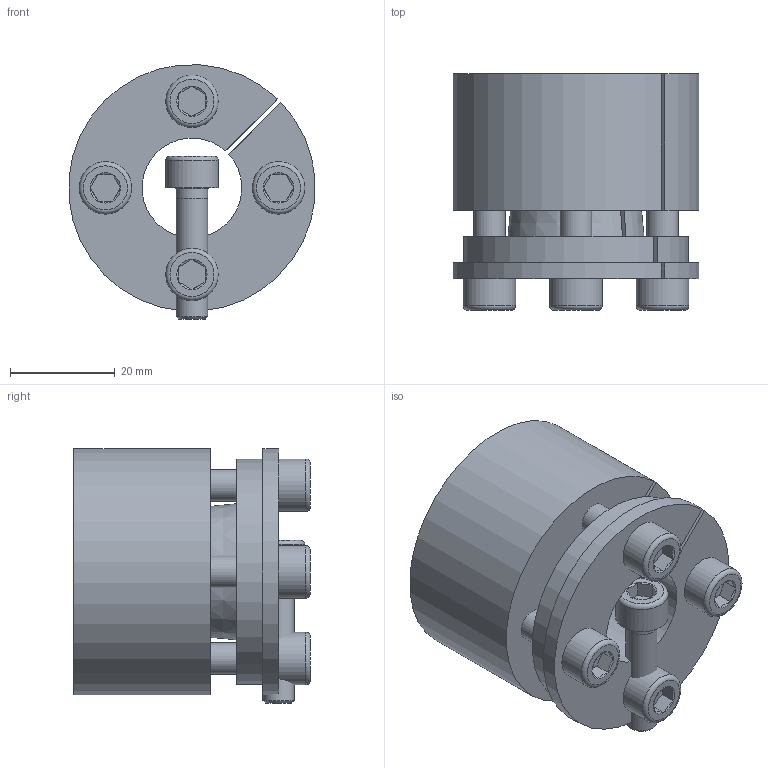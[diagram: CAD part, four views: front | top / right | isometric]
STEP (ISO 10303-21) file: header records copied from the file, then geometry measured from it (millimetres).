
FILE_DESCRIPTION( ( 'Unknown' ), '1' );
FILE_NAME( 'C:/Dokumente und Einstellungen/Sven/Desktop/homepage/cad - homepage/KBS70/KBS 70 - 19 x 47.stp', 'Unknown', ( 'Unknown' ), ( 'Unknown' ), 'XStep 1.0', 'Unknown', ' ' );
FILE_SCHEMA( ( 'automotive_design' ) );
Length unit declared in the file: millimetre
Products named in the file (3): Assem1; KBS 70 - 19 x 47; ISO EN DIN 4762 M6x25
Bounding box: 46.86 x 45 x 48.44 mm (x, y, z)
Volume: 94847 mm3; surface area: 36371.2 mm2
Topology: 7 solids, 7 shells, 169 faces, 347 edges, 212 vertices
Faces by surface type: plane 76, cylinder 44, cone 39, torus 10
Full cylindrical faces by diameter (mm): 5 x5, 6 x26, 10 x5
Entity records: 1522 total; most frequent: CARTESIAN_POINT 261, DIRECTION 228, ORIENTED_EDGE 174, AXIS2_PLACEMENT_3D 98, EDGE_CURVE 87, EDGE_LOOP 82, VERTEX_POINT 63, FACE_OUTER_BOUND 61
